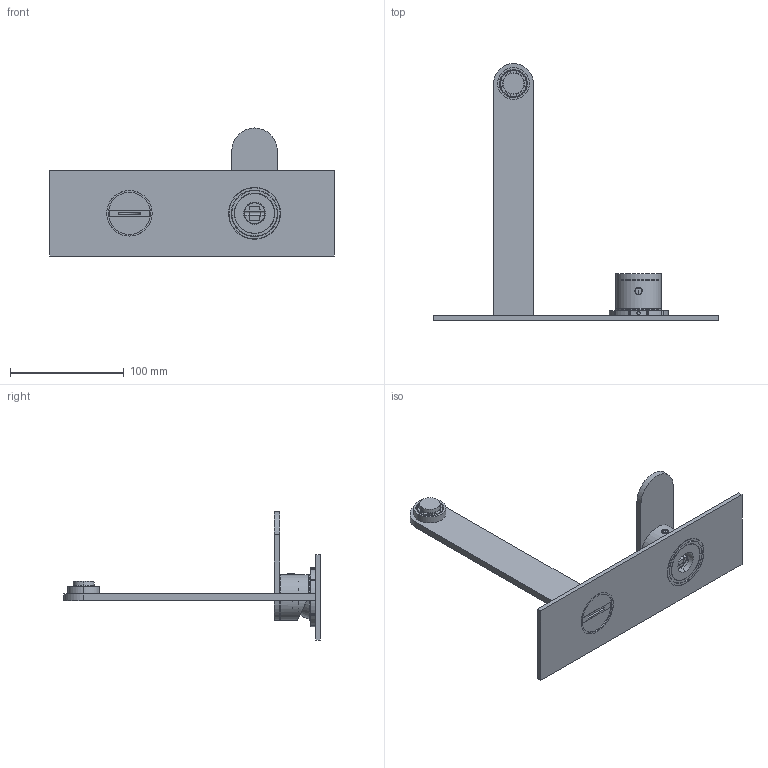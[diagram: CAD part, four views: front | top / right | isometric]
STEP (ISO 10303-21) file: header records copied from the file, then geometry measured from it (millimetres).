
FILE_DESCRIPTION((''),'2;1');
FILE_NAME('7954821_SW0001','2026-10-05T14:14:36',('carloff'),(''),'CREO PARAMETRIC BY PTC INC, 2025443','CREO PARAMETRIC BY PTC INC, 2025443','');
FILE_SCHEMA(('CONFIG_CONTROL_DESIGN'));
Length unit declared in the file: millimetre
Products named in the file (1): 7954821_SW0001
Bounding box: 250 x 225.5 x 112.5 mm (x, y, z)
Volume: 160526.7 mm3; surface area: 95940.7 mm2
Topology: 3 solids, 3 shells, 584 faces, 1617 edges, 1066 vertices
Faces by surface type: plane 263, cylinder 206, torus 54, cone 46, bspline 13, sphere 2
Entity records: 23291 total; most frequent: CARTESIAN_POINT 8124, ORIENTED_EDGE 3222, DIRECTION 3159, EDGE_CURVE 1611, AXIS2_PLACEMENT_3D 1141, VERTEX_POINT 1066, VECTOR 877, LINE 877
